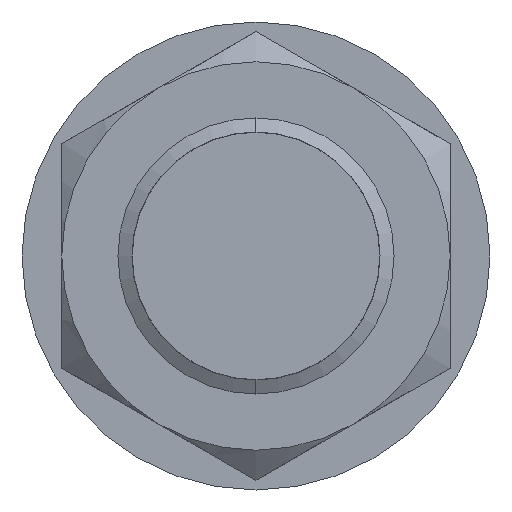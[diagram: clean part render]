
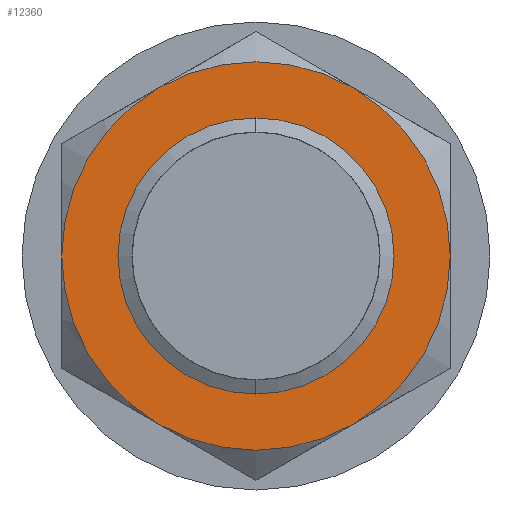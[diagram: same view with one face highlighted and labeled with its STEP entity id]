
A CAD part, left-side view. The second image highlights one B-rep face of the part: STEP entity #12360.
In plain terms, the highlighted planar face has unit normal (-1, 0, 0).
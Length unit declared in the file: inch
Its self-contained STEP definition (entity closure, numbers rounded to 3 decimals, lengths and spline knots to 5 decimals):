
#174 = EDGE_CURVE ( 'NONE', #1457, #4702, #1905, .T. ) ;
#471 = VERTEX_POINT ( 'NONE', #2589 ) ;
#498 = EDGE_CURVE ( 'NONE', #471, #1457, #2633, .T. ) ;
#575 = ORIENTED_EDGE ( 'NONE', *, *, #607, .F. ) ;
#607 = EDGE_CURVE ( 'NONE', #659, #13584, #2904, .T. ) ;
#659 = VERTEX_POINT ( 'NONE', #3030 ) ;
#1175 = EDGE_CURVE ( 'NONE', #9101, #659, #4222, .T. ) ;
#1457 = VERTEX_POINT ( 'NONE', #4911 ) ;
#1905 = CIRCLE ( 'NONE', #1906, 0.332 ) ;
#1906 = AXIS2_PLACEMENT_3D ( 'NONE', #1907, #1908, #1909 ) ;
#1907 = CARTESIAN_POINT ( 'NONE',  ( 4.53989, 4., 0. ) ) ;
#1908 = DIRECTION ( 'NONE',  ( 1., 0., 0. ) ) ;
#1909 = DIRECTION ( 'NONE',  ( 0., 0., -1. ) ) ;
#2589 = CARTESIAN_POINT ( 'NONE',  ( 4.53989, 4.166, 0.28752 ) ) ;
#2633 = CIRCLE ( 'NONE', #2634, 0.332 ) ;
#2634 = AXIS2_PLACEMENT_3D ( 'NONE', #2635, #2636, #2639 ) ;
#2635 = CARTESIAN_POINT ( 'NONE',  ( 4.53989, 4., 0. ) ) ;
#2636 = DIRECTION ( 'NONE',  ( 1., 0., 0. ) ) ;
#2639 = DIRECTION ( 'NONE',  ( 0., 1., 0. ) ) ;
#2714 = VERTEX_POINT ( 'NONE', #6080 ) ;
#2904 = CIRCLE ( 'NONE', #2905, 0.332 ) ;
#2905 = AXIS2_PLACEMENT_3D ( 'NONE', #2906, #2907, #2908 ) ;
#2906 = CARTESIAN_POINT ( 'NONE',  ( 4.53989, 4., 0. ) ) ;
#2907 = DIRECTION ( 'NONE',  ( 1., 0., 0. ) ) ;
#2908 = DIRECTION ( 'NONE',  ( 0., 0., -1. ) ) ;
#2954 = VERTEX_POINT ( 'NONE', #6402 ) ;
#3030 = CARTESIAN_POINT ( 'NONE',  ( 4.53989, 4.166, -0.28752 ) ) ;
#3200 = EDGE_CURVE ( 'NONE', #2954, #2714, #6623, .T. ) ;
#3756 = EDGE_CURVE ( 'NONE', #2714, #2954, #7293, .T. ) ;
#4222 = CIRCLE ( 'NONE', #4223, 0.332 ) ;
#4223 = AXIS2_PLACEMENT_3D ( 'NONE', #4224, #4225, #4226 ) ;
#4224 = CARTESIAN_POINT ( 'NONE',  ( 4.53989, 4., 0. ) ) ;
#4225 = DIRECTION ( 'NONE',  ( 1., 0., 0. ) ) ;
#4226 = DIRECTION ( 'NONE',  ( 0., 1., 0. ) ) ;
#4702 = VERTEX_POINT ( 'NONE', #8107 ) ;
#4911 = CARTESIAN_POINT ( 'NONE',  ( 4.53989, 3.834, 0.28752 ) ) ;
#5921 = CIRCLE ( 'NONE', #5926, 0.332 ) ;
#5926 = AXIS2_PLACEMENT_3D ( 'NONE', #5927, #5928, #5929 ) ;
#5927 = CARTESIAN_POINT ( 'NONE',  ( 4.53989, 4., 0. ) ) ;
#5928 = DIRECTION ( 'NONE',  ( 1., 0., 0. ) ) ;
#5929 = DIRECTION ( 'NONE',  ( 0., 0., -1. ) ) ;
#6080 = CARTESIAN_POINT ( 'NONE',  ( 4.53989, 4., 0.231 ) ) ;
#6402 = CARTESIAN_POINT ( 'NONE',  ( 4.53989, 4., -0.231 ) ) ;
#6546 = CARTESIAN_POINT ( 'NONE',  ( 4.53989, 4.332, 0. ) ) ;
#6623 = CIRCLE ( 'NONE', #6624, 0.231 ) ;
#6624 = AXIS2_PLACEMENT_3D ( 'NONE', #6625, #6626, #6627 ) ;
#6625 = CARTESIAN_POINT ( 'NONE',  ( 4.53989, 4., 0. ) ) ;
#6626 = DIRECTION ( 'NONE',  ( -1., 0., 0. ) ) ;
#6627 = DIRECTION ( 'NONE',  ( 0., 0., -1. ) ) ;
#7293 = CIRCLE ( 'NONE', #7294, 0.231 ) ;
#7294 = AXIS2_PLACEMENT_3D ( 'NONE', #7295, #7296, #7297 ) ;
#7295 = CARTESIAN_POINT ( 'NONE',  ( 4.53989, 4., 0. ) ) ;
#7296 = DIRECTION ( 'NONE',  ( -1., 0., 0. ) ) ;
#7297 = DIRECTION ( 'NONE',  ( 0., 0., -1. ) ) ;
#7867 = ORIENTED_EDGE ( 'NONE', *, *, #10098, .F. ) ;
#8107 = CARTESIAN_POINT ( 'NONE',  ( 4.53989, 3.668, 0. ) ) ;
#8442 = ORIENTED_EDGE ( 'NONE', *, *, #498, .F. ) ;
#9020 = ORIENTED_EDGE ( 'NONE', *, *, #174, .F. ) ;
#9101 = VERTEX_POINT ( 'NONE', #10430 ) ;
#9594 = ORIENTED_EDGE ( 'NONE', *, *, #12981, .F. ) ;
#10098 = EDGE_CURVE ( 'NONE', #13584, #471, #10885, .T. ) ;
#10163 = ORIENTED_EDGE ( 'NONE', *, *, #1175, .F. ) ;
#10430 = CARTESIAN_POINT ( 'NONE',  ( 4.53989, 3.834, -0.28752 ) ) ;
#10733 = EDGE_LOOP ( 'NONE', ( #10163, #9594, #9020, #8442, #7867, #575 ) ) ;
#10885 = CIRCLE ( 'NONE', #10886, 0.332 ) ;
#10886 = AXIS2_PLACEMENT_3D ( 'NONE', #10887, #10888, #10889 ) ;
#10887 = CARTESIAN_POINT ( 'NONE',  ( 4.53989, 4., 0. ) ) ;
#10888 = DIRECTION ( 'NONE',  ( 1., 0., 0. ) ) ;
#10889 = DIRECTION ( 'NONE',  ( 0., 0., -1. ) ) ;
#11006 = ORIENTED_EDGE ( 'NONE', *, *, #3756, .F. ) ;
#11561 = ORIENTED_EDGE ( 'NONE', *, *, #3200, .F. ) ;
#12003 = FACE_BOUND ( 'NONE', #12141, .T. ) ;
#12004 = FACE_OUTER_BOUND ( 'NONE', #10733, .T. ) ;
#12005 = PLANE ( 'NONE',  #12006 ) ;
#12006 = AXIS2_PLACEMENT_3D ( 'NONE', #12007, #12008, #12009 ) ;
#12007 = CARTESIAN_POINT ( 'NONE',  ( 4.53989, 4., 0. ) ) ;
#12008 = DIRECTION ( 'NONE',  ( 1., 0., 0. ) ) ;
#12009 = DIRECTION ( 'NONE',  ( 0., 0., -1. ) ) ;
#12141 = EDGE_LOOP ( 'NONE', ( #11561, #11006 ) ) ;
#12360 = ADVANCED_FACE ( 'NONE', ( #12003, #12004 ), #12005, .F. ) ;
#12981 = EDGE_CURVE ( 'NONE', #4702, #9101, #5921, .T. ) ;
#13584 = VERTEX_POINT ( 'NONE', #6546 ) ;
